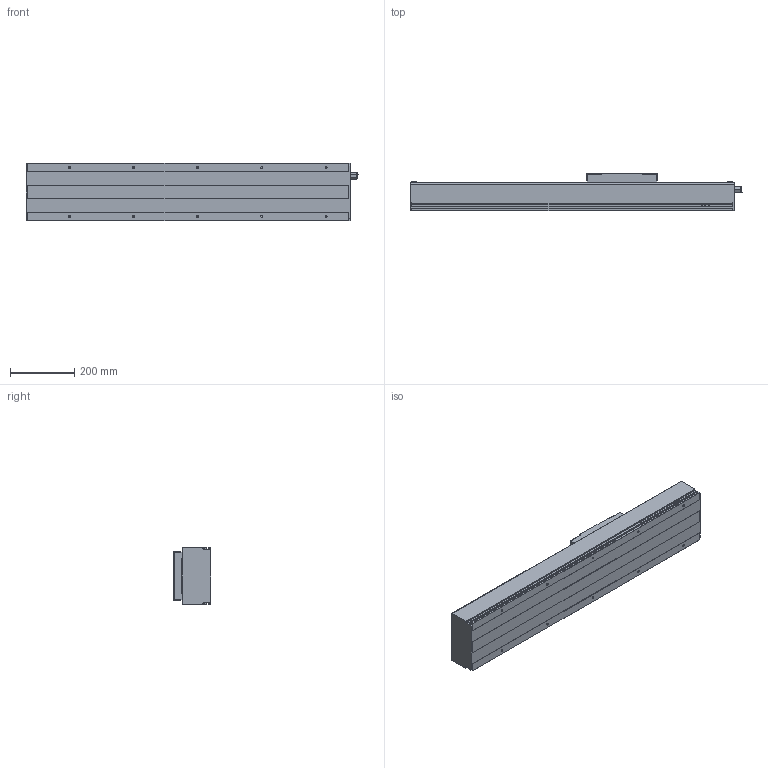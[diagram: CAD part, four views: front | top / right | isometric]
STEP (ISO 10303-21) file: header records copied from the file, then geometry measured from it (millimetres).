
FILE_DESCRIPTION(/* description */ (''),/* implementation_level */ '2;1');
FILE_NAME(/* name */ 'D:\混合母檔20191031\混和母檔\混和母檔\bin\Debug\Download\3D\KS180-10C-500AFI\KS180-10C-500AFI.stp',/* time_stamp */ '2019-11-04T16:13:59+08:00',/* author */ ('user'),/* organization */ (''),/* preprocessor_version */ 'ST-DEVELOPER v16.13',/* originating_system */ 'Autodesk Inventor 2018',/* authorisation */ '');
FILE_SCHEMA (('AUTOMOTIVE_DESIGN { 1 0 10303 214 3 1 1 }'));
Length unit declared in the file: millimetre
Products named in the file (3): KS180-10C-500AFI; KS180-FI; KS180-SL
Assembly tree (2 placements, depth 2):
  KS180-10C-500AFI
    KS180-FI
    KS180-SL
Bounding box: 1034.5 x 118 x 180 mm (x, y, z)
Volume: 6101048.8 mm3; surface area: 1286852.6 mm2
Topology: 4 solids, 8 shells, 730 faces, 1946 edges, 1270 vertices
Faces by surface type: plane 408, bspline 136, cylinder 84, cone 82, torus 16, sphere 4
Full cylindrical faces by diameter (mm): 3.571 x4, 4 x4, 4.134 x4, 4.5 x4, 6 x6, 6.647 x10, 8 x6, 8.016 x1, 8.4 x4, 9.4 x4, 12 x2, 13.1 x1, 15 x1, 18.75 x2, 46 x1, 50 x1
Entity records: 26361 total; most frequent: CARTESIAN_POINT 9320, ORIENTED_EDGE 3662, DIRECTION 3052, EDGE_CURVE 1830, VERTEX_POINT 1247, LINE 1174, VECTOR 1174, AXIS2_PLACEMENT_3D 939
